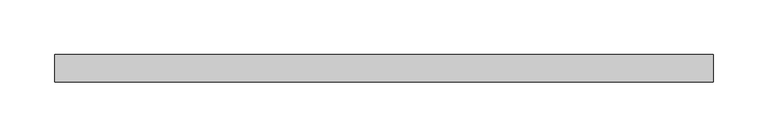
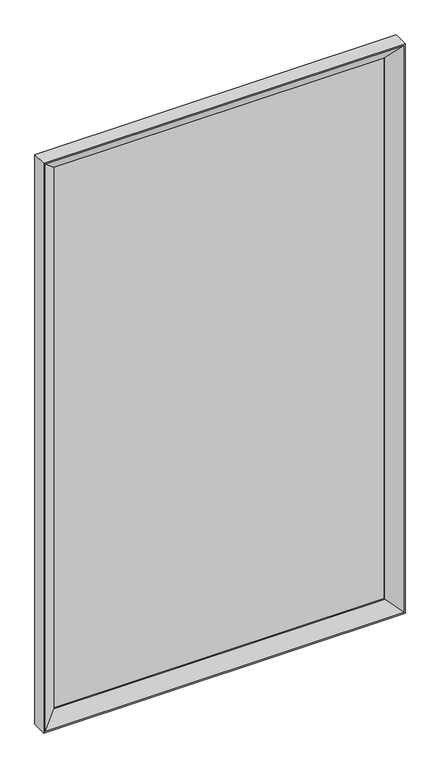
"""IFC4 building model written with IfcOpenShell, lengths in millimetres: proxy geometry, Mirror_Metlam_Framed : 600w x 25d x 1000h (ML771_6)."""

from ifc_helpers import new_model, si_unit, frame, origin, place, context, project, spatial, polyline, outline, extrude, faceted_brep, source, transform, mapped, element, save


def specialty_equipment_90be7445(model_context):
    return source(origin(), model_context, "Body", "SolidModel", [
        extrude(outline(polyline([(298.0, -2.0), (298.0, -8.0), (-298.0, -8.0), (-298.0, -2.0), (298.0, -2.0)])), frame((0.0, 0.0, 902.0), z_axis=(0.0, 0.0, 1.0), x_axis=(1.0, 0.0, 0.0)), (0.0, 0.0, 1.0), 996.0),
        faceted_brep([(-300.0, -25.0, 1900.0), (-300.0, 0.0, 1900.0), (-300.0, 0.0, 900.0), (-300.0, -25.0, 900.0), (-275.0, 0.0, 1875.0), (-275.0, -2.0, 1875.0), (-275.0, -2.0, 925.0), (-275.0, 0.0, 925.0), (300.0, 0.0, 900.0), (300.0, -25.0, 900.0), (275.0, -2.0, 925.0), (275.0, 0.0, 925.0), (300.0, 0.0, 1900.0), (300.0, -25.0, 1900.0), (275.0, -2.0, 1875.0), (275.0, 0.0, 1875.0), (-297.4054586, -25.0, 1897.4054586), (297.4054586, -25.0, 1897.4054586), (297.4054586, -25.0, 902.5945414), (-297.4054586, -25.0, 902.5945414), (-298.0, -2.0, 1898.0), (-298.0, -23.0, 1898.0), (-298.0, -23.0, 902.0), (-298.0, -2.0, 902.0), (-275.0, -8.0, 1875.0), (-275.0, -8.0, 925.0), (-275.0, -10.3877444, 1875.0), (-275.0, -10.3877444, 925.0), (298.0, -23.0, 902.0), (298.0, -2.0, 902.0), (275.0, -8.0, 925.0), (275.0, -10.3877444, 925.0), (298.0, -23.0, 1898.0), (298.0, -2.0, 1898.0), (275.0, -8.0, 1875.0), (275.0, -10.3877444, 1875.0)], [[[0, 1, 2, 3]], [[4, 5, 6, 7]], [[3, 2, 8, 9]], [[7, 6, 10, 11]], [[9, 8, 12, 13]], [[11, 10, 14, 15]], [[13, 12, 1, 0]], [[1, 12, 8, 2], [7, 11, 15, 4]], [[15, 14, 5, 4]], [[3, 9, 13, 0], [16, 17, 18, 19]], [[20, 21, 22, 23]], [[21, 24, 25, 22]], [[24, 26, 27, 25]], [[26, 16, 19, 27]], [[23, 22, 28, 29]], [[22, 25, 30, 28]], [[25, 27, 31, 30]], [[27, 19, 18, 31]], [[29, 28, 32, 33]], [[28, 30, 34, 32]], [[30, 31, 35, 34]], [[31, 18, 17, 35]], [[23, 29, 33, 20], [5, 14, 10, 6]], [[33, 32, 21, 20]], [[32, 34, 24, 21]], [[34, 35, 26, 24]], [[35, 17, 16, 26]]]),
    ])


if __name__ == "__main__":
    model = new_model("IFC4")
    model_context = context("Model", 3, world=origin())
    ifc_project = project(units=[si_unit("LENGTHUNIT", "METRE", prefix="MILLI")], contexts=[model_context])
    site = spatial("IfcSite", under=ifc_project)
    building = spatial("IfcBuilding", under=site)
    placement = place(None, origin())
    specialty_equipment_shape = specialty_equipment_90be7445(model_context)
    element("IfcBuildingElementProxy", 1, Name="Mirror_Metlam_Framed : 600w x 25d x 1000h (ML771_6)", ObjectType="Mirror_Metlam_Framed : 600w x 25d x 1000h (ML771_6)", at=placement, inside=building, context=model_context, shape_type="MappedRepresentation", body=[
        mapped(specialty_equipment_shape, transform((0.0, 0.0, 0.0), x_axis=(1.0, 0.0, 0.0), y_axis=(0.0, 1.0, 0.0), z_axis=(0.0, 0.0, 1.0))),
    ])
    save(model, "model.ifc")
